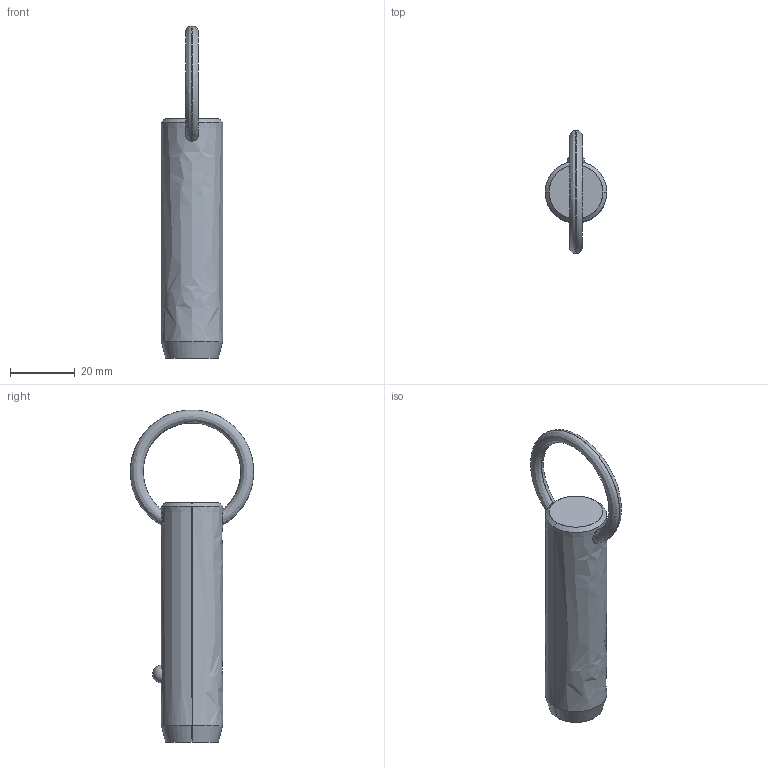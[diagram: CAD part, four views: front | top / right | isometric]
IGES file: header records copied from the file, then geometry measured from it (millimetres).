
Start section: SolidWorks IGES file using analytic representation for surfaces
Global section: file name: C:\Users\liam_\OneDrive\Documents\WORK\Work for WixRoyd\Job Files\J-00019 - Matt Davis CAD Checking\04. CAD Drawings\automotion20190605\P1250.2_v2\P1250.2_v2_20190729_IGES\P1250.075-160.igs; native system: SolidWorks 2017; preprocessor: SolidWorks 2017; author: liam_; date: 190729.234804; units: millimetre
Bounding box: 19 x 38.02 x 102.48 mm (x, y, z)
Surface area: 5943.9 mm2 (no closed solid volume)
Topology: 0 solids, 0 shells, 12 faces, 294 edges, 292 vertices
Faces by surface type: revolution 8, bspline 4
